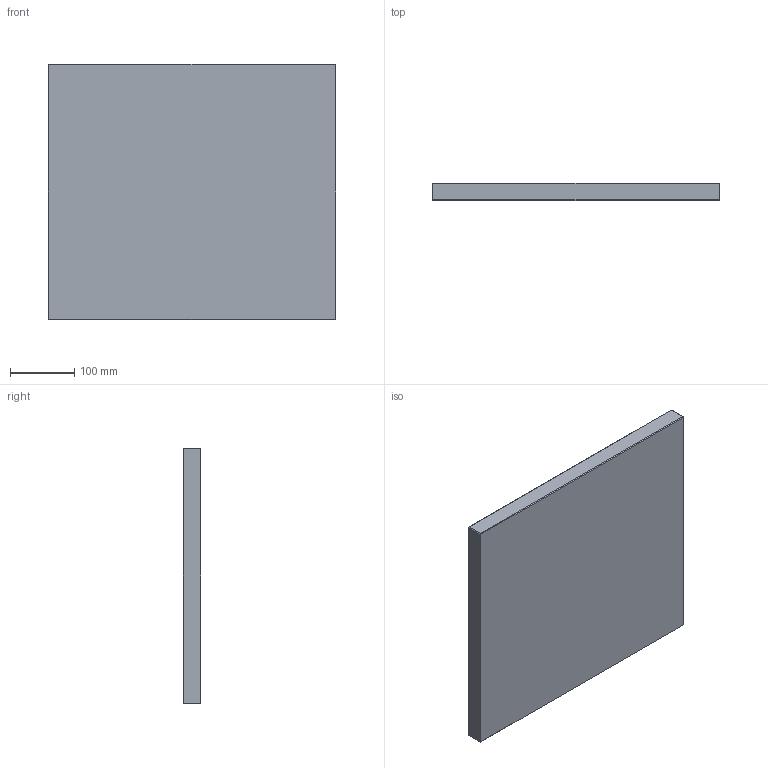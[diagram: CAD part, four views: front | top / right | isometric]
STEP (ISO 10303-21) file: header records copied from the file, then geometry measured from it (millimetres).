
FILE_DESCRIPTION (( 'STEP AP214' ), '1' );
FILE_NAME ('PBA-P-396x396x27.STEP', '2020-03-11T15:54:12', ( 'August' ), ( '' ), 'SwSTEP 2.0', 'SolidWorks 2018', '' );
FILE_SCHEMA (( 'AUTOMOTIVE_DESIGN' ));
Length unit declared in the file: millimetre
Products named in the file (1): PBA-P-396x396x27
Bounding box: 446 x 27 x 396 mm (x, y, z)
Volume: 4766899.3 mm3; surface area: 396660.8 mm2
Topology: 1 solids, 1 shells, 26 faces, 48 edges, 24 vertices
Faces by surface type: plane 26
Entity records: 634 total; most frequent: DIRECTION 102, CARTESIAN_POINT 99, ORIENTED_EDGE 96, VECTOR 48, EDGE_CURVE 48, LINE 48, AXIS2_PLACEMENT_3D 27, PLANE 26
